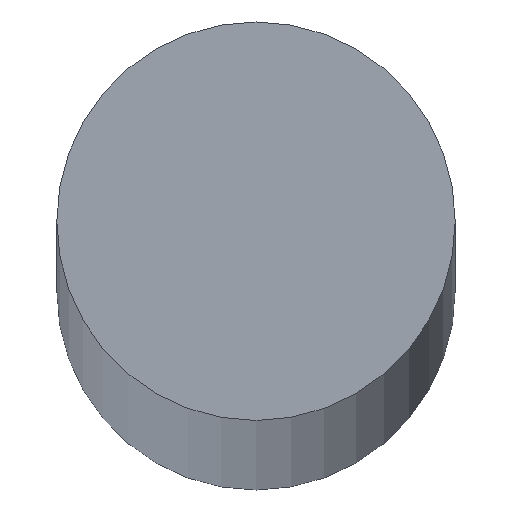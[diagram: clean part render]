
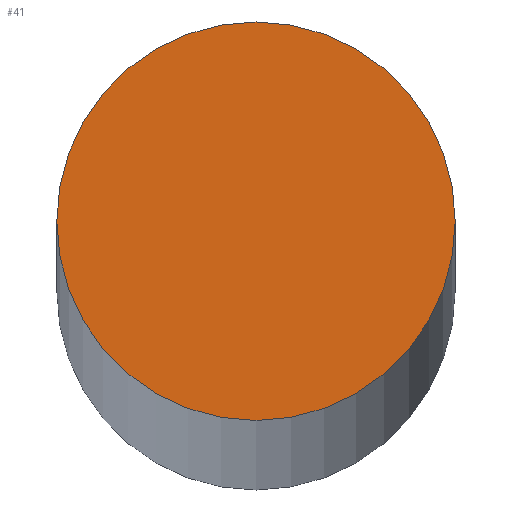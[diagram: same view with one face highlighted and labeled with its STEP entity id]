
A CAD part, top view. The second image highlights one B-rep face of the part: STEP entity #41.
In plain terms, the highlighted planar face has unit normal (0, 0, 1).
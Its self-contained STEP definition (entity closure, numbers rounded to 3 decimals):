
#16=PLANE('',#66);
#19=FACE_OUTER_BOUND('',#22,.T.);
#22=EDGE_LOOP('',(#37));
#25=CIRCLE('',#63,8.);
#27=VERTEX_POINT('',#82);
#29=EDGE_CURVE('',#27,#27,#25,.T.);
#37=ORIENTED_EDGE('',*,*,#29,.T.);
#41=ADVANCED_FACE('',(#19),#16,.T.);
#63=AXIS2_PLACEMENT_3D('',#83,#71,#72);
#66=AXIS2_PLACEMENT_3D('',#88,#78,#79);
#71=DIRECTION('center_axis',(0.,0.,1.));
#72=DIRECTION('ref_axis',(-1.,0.,0.));
#78=DIRECTION('center_axis',(0.,0.,1.));
#79=DIRECTION('ref_axis',(1.,0.,0.));
#82=CARTESIAN_POINT('',(8.,0.,1600.));
#83=CARTESIAN_POINT('Origin',(0.,0.,1600.));
#88=CARTESIAN_POINT('Origin',(0.,0.,
1600.));
